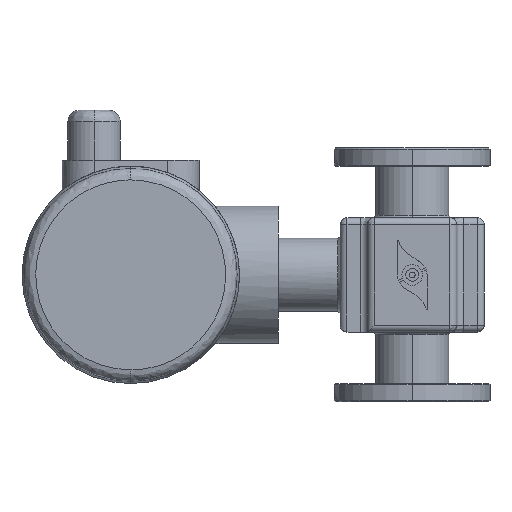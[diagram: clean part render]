
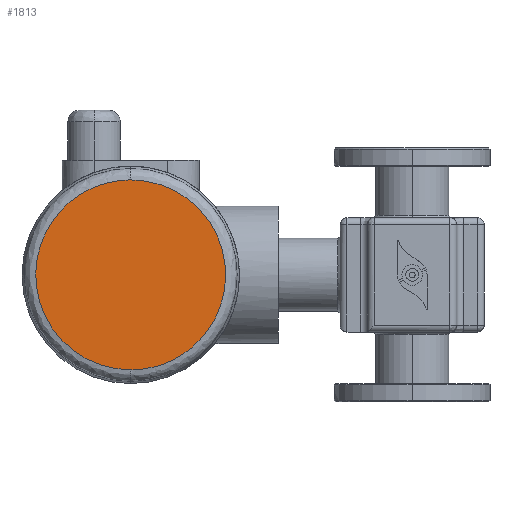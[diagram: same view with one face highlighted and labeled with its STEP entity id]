
A CAD part, left-side view. The second image highlights one B-rep face of the part: STEP entity #1813.
In plain terms, the highlighted planar face has unit normal (-1, 0, 0).
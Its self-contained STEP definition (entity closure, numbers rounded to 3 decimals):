
#547 =( BOUNDED_CURVE ( )  B_SPLINE_CURVE ( 3, ( #855, #8442, #6219, #6263 ),
 .UNSPECIFIED., .F., .T. ) 
 B_SPLINE_CURVE_WITH_KNOTS ( ( 4, 4 ),
 ( 0., 1. ),
 .UNSPECIFIED. ) 
 CURVE ( )  GEOMETRIC_REPRESENTATION_ITEM ( )  RATIONAL_B_SPLINE_CURVE ( ( 1., 0.333, 0.333, 1. ) ) 
 REPRESENTATION_ITEM ( '' )  );
#855 = CARTESIAN_POINT ( 'NONE',  ( -62., 123., -111.5 ) ) ;
#1129 = FACE_OUTER_BOUND ( 'NONE', #3884, .T. ) ;
#1456 = CARTESIAN_POINT ( 'NONE',  ( -62., 40., -28.5 ) ) ;
#1813 = ADVANCED_FACE ( 'NONE', ( #1129 ), #4173, .F. ) ;
#2120 = ORIENTED_EDGE ( 'NONE', *, *, #3092, .F. ) ;
#2150 = CARTESIAN_POINT ( 'NONE',  ( -62., 40., -111.5 ) ) ;
#2851 = CARTESIAN_POINT ( 'NONE',  ( -62., 123., -111.5 ) ) ;
#3092 = EDGE_CURVE ( 'NONE', #4094, #5898, #9690, .T. ) ;
#3884 = EDGE_LOOP ( 'NONE', ( #7502, #2120 ) ) ;
#4094 = VERTEX_POINT ( 'NONE', #4314 ) ;
#4173 = PLANE ( 'NONE',  #5347 ) ;
#4223 = DIRECTION ( 'NONE',  ( 1., 0., 0. ) ) ;
#4314 = CARTESIAN_POINT ( 'NONE',  ( -62., 123., -28.5 ) ) ;
#5347 = AXIS2_PLACEMENT_3D ( 'NONE', #7254, #4223, #7301 ) ;
#5353 = CARTESIAN_POINT ( 'NONE',  ( -62., 123., -28.5 ) ) ;
#5898 = VERTEX_POINT ( 'NONE', #9707 ) ;
#6219 = CARTESIAN_POINT ( 'NONE',  ( -62., 206., -28.5 ) ) ;
#6263 = CARTESIAN_POINT ( 'NONE',  ( -62., 123., -28.5 ) ) ;
#7254 = CARTESIAN_POINT ( 'NONE',  ( -62., 123., -116.5 ) ) ;
#7301 = DIRECTION ( 'NONE',  ( 0., 1., 0. ) ) ;
#7502 = ORIENTED_EDGE ( 'NONE', *, *, #9105, .F. ) ;
#8442 = CARTESIAN_POINT ( 'NONE',  ( -62., 206., -111.5 ) ) ;
#9105 = EDGE_CURVE ( 'NONE', #5898, #4094, #547, .T. ) ;
#9690 =( BOUNDED_CURVE ( )  B_SPLINE_CURVE ( 3, ( #5353, #1456, #2150, #2851 ),
 .UNSPECIFIED., .F., .T. ) 
 B_SPLINE_CURVE_WITH_KNOTS ( ( 4, 4 ),
 ( 0., 1. ),
 .UNSPECIFIED. ) 
 CURVE ( )  GEOMETRIC_REPRESENTATION_ITEM ( )  RATIONAL_B_SPLINE_CURVE ( ( 1., 0.333, 0.333, 1. ) ) 
 REPRESENTATION_ITEM ( '' )  );
#9707 = CARTESIAN_POINT ( 'NONE',  ( -62., 123., -111.5 ) ) ;
